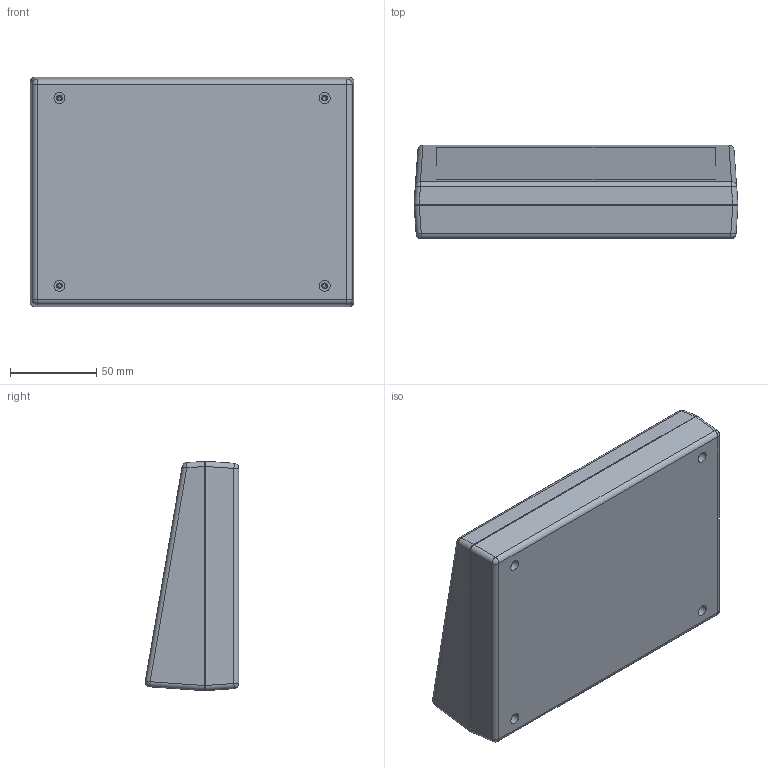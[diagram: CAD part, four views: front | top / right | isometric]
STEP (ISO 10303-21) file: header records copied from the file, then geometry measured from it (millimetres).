
FILE_DESCRIPTION (( 'STEP AP203' ), '1' );
FILE_NAME ('PT130.STEP', '2019-03-14T06:04:46', ( '' ), ( '' ), 'SwSTEP 2.0', 'SolidWorks 2018', '' );
FILE_SCHEMA (( 'CONFIG_CONTROL_DESIGN' ));
Length unit declared in the file: millimetre
Products named in the file (3): PT130
Assembly tree (2 placements, depth 2):
  PT130
    PT130
    PT130
Bounding box: 188.14 x 54.28 x 133.24 mm (x, y, z)
Volume: 223978.7 mm3; surface area: 159064.9 mm2
Topology: 2 solids, 2 shells, 568 faces, 1409 edges, 922 vertices
Faces by surface type: plane 258, cylinder 256, cone 30, bspline 16, sphere 8
Entity records: 18305 total; most frequent: CARTESIAN_POINT 5013, ORIENTED_EDGE 2802, DIRECTION 2483, EDGE_CURVE 1401, VECTOR 929, LINE 929, VERTEX_POINT 920, AXIS2_PLACEMENT_3D 777
